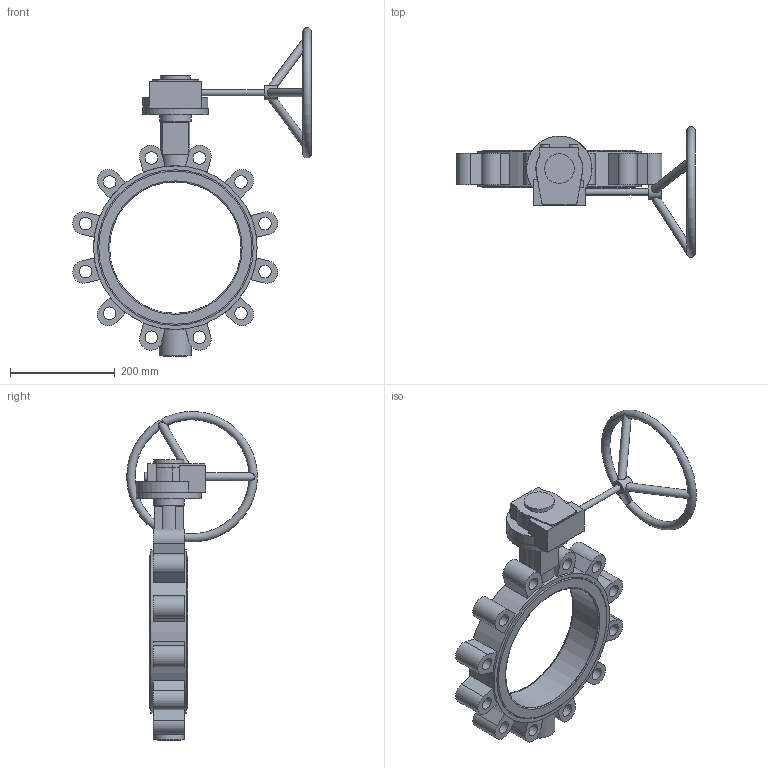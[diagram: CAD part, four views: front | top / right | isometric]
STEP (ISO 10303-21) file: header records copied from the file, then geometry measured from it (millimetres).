
FILE_DESCRIPTION (( 'STEP AP203' ), '1' );
FILE_NAME ('2502 LT型中线衬胶带销 手动头蝶阀 DN250 PN16 CD0309122.STEP', '2026-03-27T00:40:47', ( '' ), ( '' ), 'SwSTEP 2.0', 'SolidWorks 2018', '' );
FILE_SCHEMA (( 'CONFIG_CONTROL_DESIGN' ));
Length unit declared in the file: millimetre
Products named in the file (5): DIN908-内六角螺塞-M38x1.5; G35 潠趙; 2502 LT型中线衬胶带销 手动头蝶阀 DN250 PN16 CD0309122; GALA-D250-04AZC-00; GALA-D250-01LCN-00
Assembly tree (4 placements, depth 2):
  2502 LT型中线衬胶带销 手动头蝶阀 DN250 PN16 CD0309122
    GALA-D250-04AZC-00
    DIN908-内六角螺塞-M38x1.5
    GALA-D250-01LCN-00
    G35 潠趙
Bounding box: 456.25 x 249.97 x 628.86 mm (x, y, z)
Volume: 4244189 mm3; surface area: 687516.9 mm2
Topology: 4 solids, 5 shells, 195 faces, 497 edges, 333 vertices
Faces by surface type: plane 116, cylinder 59, bspline 10, cone 6, torus 4
Full cylindrical faces by diameter (mm): 12 x5, 16 x3, 17 x2, 24 x12, 27 x1, 38 x1, 44 x1, 56 x1, 57 x1, 60 x2, 125 x1, 251.404 x1, 262 x1, 262.003 x1, 293.003 x2, 298 x2, 313 x1
Entity records: 8378 total; most frequent: CARTESIAN_POINT 3459, DIRECTION 884, ORIENTED_EDGE 846, EDGE_CURVE 423, AXIS2_PLACEMENT_3D 336, VERTEX_POINT 306, EDGE_LOOP 303, FACE_OUTER_BOUND 233
